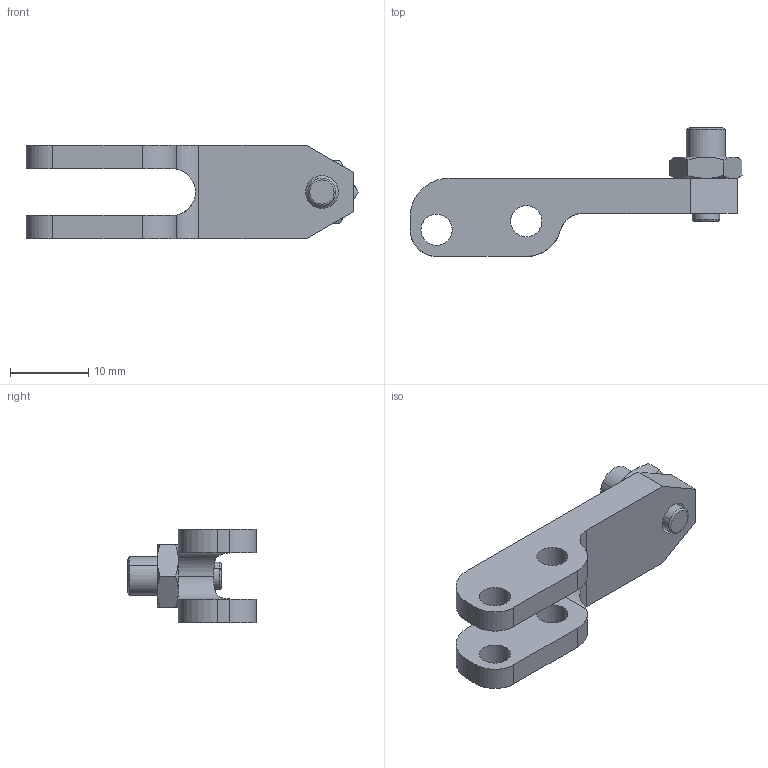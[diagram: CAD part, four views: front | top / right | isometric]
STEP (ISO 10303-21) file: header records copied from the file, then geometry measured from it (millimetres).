
FILE_DESCRIPTION (( 'STEP AP214' ), '1' );
FILE_NAME ('ITLC14L-002.STEP', '2017-03-20T12:37:36', ( '' ), ( '' ), 'SwSTEP 2.0', 'SolidWorks 2014', '' );
FILE_SCHEMA (( 'AUTOMOTIVE_DESIGN' ));
Length unit declared in the file: millimetre
Products named in the file (4): 2012002; DIN 915 - 8.8_DIN 915 - M5 x 12; ITLC14L-002; MutterM5-flach-DIN439
Assembly tree (3 placements, depth 2):
  ITLC14L-002
    2012002
    DIN 915 - 8.8_DIN 915 - M5 x 12
    MutterM5-flach-DIN439
Bounding box: 42.52 x 16.5 x 12 mm (x, y, z)
Volume: 2264.2 mm3; surface area: 2250.5 mm2
Topology: 3 solids, 3 shells, 79 faces, 190 edges, 118 vertices
Faces by surface type: plane 30, cylinder 25, cone 22, torus 2
Entity records: 2586 total; most frequent: CARTESIAN_POINT 503, DIRECTION 404, ORIENTED_EDGE 380, EDGE_CURVE 190, AXIS2_PLACEMENT_3D 157, VERTEX_POINT 118, EDGE_LOOP 92, VECTOR 90
